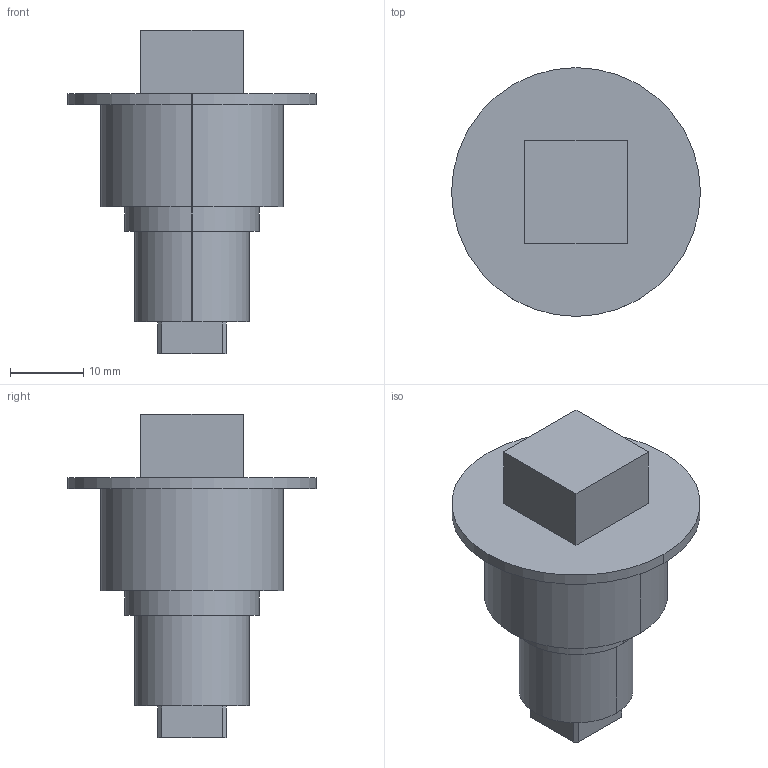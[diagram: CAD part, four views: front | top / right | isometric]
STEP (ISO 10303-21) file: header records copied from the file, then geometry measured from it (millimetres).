
FILE_DESCRIPTION((''),'1');
FILE_NAME('3','2001-04-17T',('jlue'),(''),'PRO/ENGINEER BY PARAMETRIC TECHNOLOGY CORPORATION, 9846','PRO/ENGINEER BY PARAMETRIC TECHNOLOGY CORPORATION, 9846','');
FILE_SCHEMA(('CONFIG_CONTROL_DESIGN'));
Length unit declared in the file: inch
Products named in the file (1): 3
Bounding box: 34.04 x 34.04 x 44.2 mm (x, y, z)
Surface area: 4523.1 mm2 (no closed solid volume)
Topology: 0 solids, 0 shells, 27 faces, 121 edges, 122 vertices
Faces by surface type: plane 19, cylinder 8
Entity records: 681 total; most frequent: DIRECTION 131, COMPOSITE_CURVE_SEGMENT 120, CARTESIAN_POINT 88, TRIMMED_CURVE 61, VECTOR 45, LINE 45, AXIS2_PLACEMENT_3D 43, CURVE_BOUNDED_SURFACE 27
